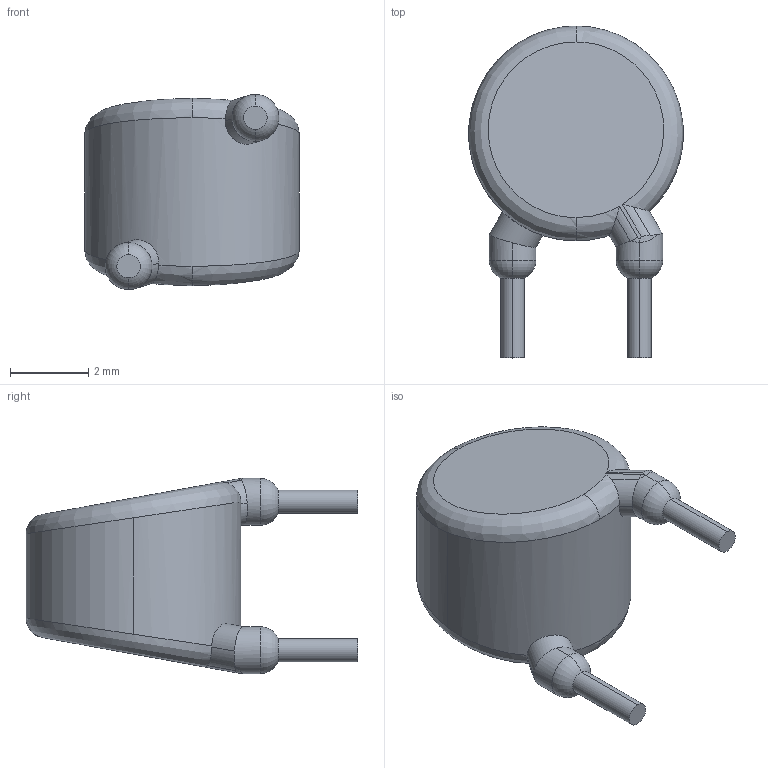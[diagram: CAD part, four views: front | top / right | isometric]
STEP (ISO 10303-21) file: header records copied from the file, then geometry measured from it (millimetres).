
FILE_DESCRIPTION (( 'STEP AP214' ), '1' );
FILE_NAME ('B57164K.STEP', '2011-11-21T08:08:20', ( 'vpeshkov' ), ( 'ELCORT' ), 'SwSTEP 2.0', 'SolidWorks 2009', '' );
FILE_SCHEMA (( 'AUTOMOTIVE_DESIGN' ));
Length unit declared in the file: millimetre
Products named in the file (1): B57164K
Bounding box: 5.5 x 8.5 x 5 mm (x, y, z)
Volume: 97.4 mm3; surface area: 127 mm2
Topology: 1 solids, 1 shells, 38 faces, 98 edges, 62 vertices
Faces by surface type: cylinder 20, bspline 10, torus 4, plane 4
Entity records: 2138 total; most frequent: CARTESIAN_POINT 1263, ORIENTED_EDGE 196, DIRECTION 124, EDGE_CURVE 98, VERTEX_POINT 62, AXIS2_PLACEMENT_3D 51, EDGE_LOOP 38, ADVANCED_FACE 38
